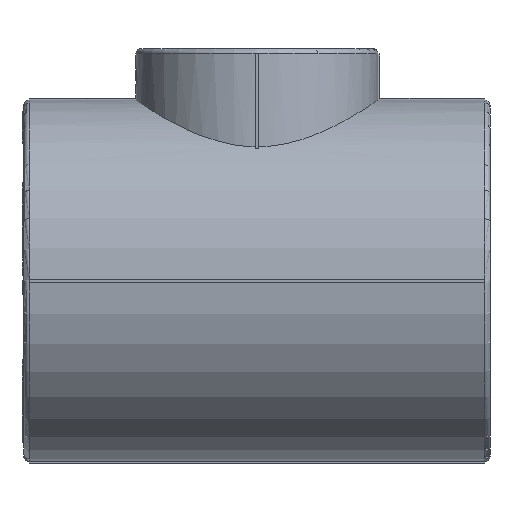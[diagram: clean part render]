
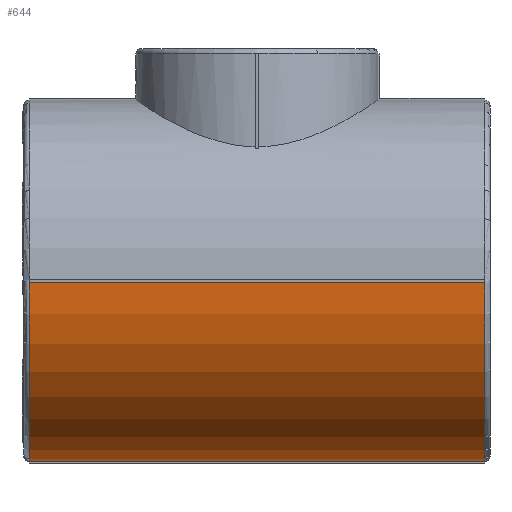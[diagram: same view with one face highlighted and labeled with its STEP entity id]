
A CAD part, left-side view. The second image highlights one B-rep face of the part: STEP entity #644.
In plain terms, the highlighted cylindrical face has radius 50 mm (diameter 100 mm), a partial arc.
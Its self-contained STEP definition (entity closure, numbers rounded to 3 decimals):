
#644=ADVANCED_FACE('',(#5016),#5018,.T.);
#5016=FACE_BOUND('',#5017,.T.);
#5017=EDGE_LOOP('',(#12780,#12781,#12782,#12783));
#5018=CYLINDRICAL_SURFACE('',#5019,50.);
#5019=AXIS2_PLACEMENT_3D('',#5020,#5021,#5022);
#5020=CARTESIAN_POINT('',(0.,-64.5,0.));
#5021=DIRECTION('',(0.,1.,0.));
#5022=DIRECTION('',(-1.,0.,0.));
#12780=ORIENTED_EDGE('',*,*,#18170,.F.);
#12781=ORIENTED_EDGE('',*,*,#18171,.T.);
#12782=ORIENTED_EDGE('',*,*,#18172,.F.);
#12783=ORIENTED_EDGE('',*,*,#18133,.F.);
#18133=EDGE_CURVE('',#22318,#22320,#22321,.T.);
#18170=EDGE_CURVE('',#22387,#22318,#22388,.T.);
#18171=EDGE_CURVE('',#22387,#22389,#22390,.T.);
#18172=EDGE_CURVE('',#22320,#22389,#22391,.F.);
#22318=VERTEX_POINT('',#30762);
#22320=VERTEX_POINT('',#30767);
#22321=CIRCLE('',#30768,50.);
#22387=VERTEX_POINT('',#31175);
#22388=LINE('',#31176,#31177);
#22389=VERTEX_POINT('',#31179);
#22390=CIRCLE('',#31180,50.);
#22391=LINE('',#31184,#31185);
#30762=CARTESIAN_POINT('',(-0.5,63.,-49.997));
#30767=CARTESIAN_POINT('',(-49.997,63.,-0.5));
#30768=AXIS2_PLACEMENT_3D('',#30769,#30770,#30771);
#30769=CARTESIAN_POINT('',(0.,63.,0.));
#30770=DIRECTION('',(0.,1.,0.));
#30771=DIRECTION('',(-0.01,0.,-1.));
#31175=CARTESIAN_POINT('',(-0.5,-63.,-49.997));
#31176=CARTESIAN_POINT('',(-0.5,-63.,-49.997));
#31177=VECTOR('',#31178,1.);
#31178=DIRECTION('',(0.,1.,0.));
#31179=CARTESIAN_POINT('',(-49.997,-63.,-0.5));
#31180=AXIS2_PLACEMENT_3D('',#31181,#31182,#31183);
#31181=CARTESIAN_POINT('',(0.,-63.,0.));
#31182=DIRECTION('',(0.,1.,0.));
#31183=DIRECTION('',(-0.01,0.,-1.));
#31184=CARTESIAN_POINT('',(-49.997,-63.,-0.5));
#31185=VECTOR('',#31186,1.);
#31186=DIRECTION('',(0.,1.,0.));
